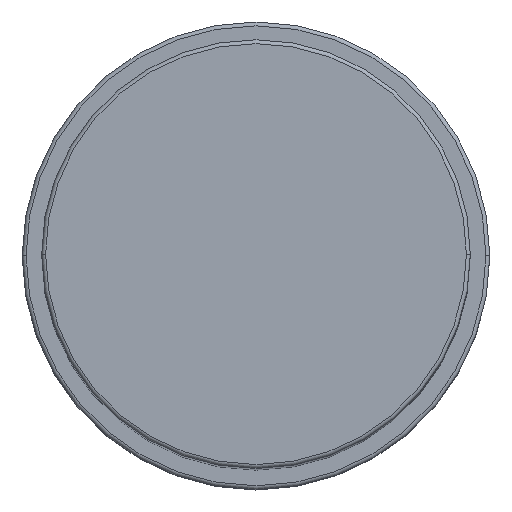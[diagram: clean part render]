
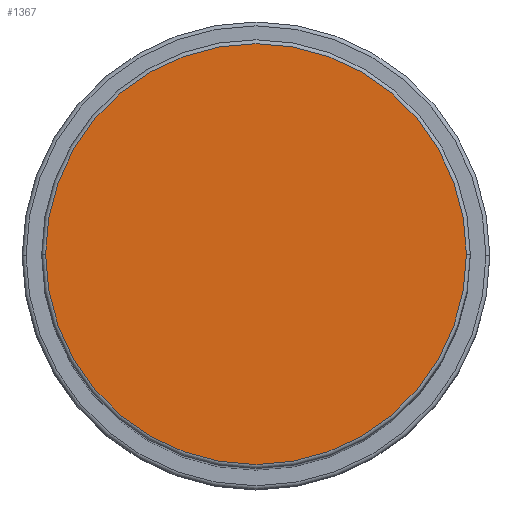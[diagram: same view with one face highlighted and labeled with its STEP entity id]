
A CAD part, top view. The second image highlights one B-rep face of the part: STEP entity #1367.
In plain terms, the highlighted planar face has unit normal (0, 0, 1).
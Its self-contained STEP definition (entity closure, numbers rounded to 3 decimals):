
#49 = CARTESIAN_POINT ( 'NONE',  ( 0., 0., 138. ) ) ;
#80 = CIRCLE ( 'NONE', #1236, 27. ) ;
#142 = CARTESIAN_POINT ( 'NONE',  ( 0., 0., 138. ) ) ;
#313 = PLANE ( 'NONE',  #796 ) ;
#611 = DIRECTION ( 'NONE',  ( 1., 0., 0. ) ) ;
#655 = DIRECTION ( 'NONE',  ( 1., 0., 0. ) ) ;
#719 = FACE_OUTER_BOUND ( 'NONE', #809, .T. ) ;
#796 = AXIS2_PLACEMENT_3D ( 'NONE', #49, #1702, #611 ) ;
#809 = EDGE_LOOP ( 'NONE', ( #884, #992 ) ) ;
#855 = VERTEX_POINT ( 'NONE', #1445 ) ;
#864 = CARTESIAN_POINT ( 'NONE',  ( -27., 0., 138. ) ) ;
#884 = ORIENTED_EDGE ( 'NONE', *, *, #1029, .T. ) ;
#899 = AXIS2_PLACEMENT_3D ( 'NONE', #142, #1233, #1632 ) ;
#926 = CARTESIAN_POINT ( 'NONE',  ( 0., 0., 138. ) ) ;
#952 = CIRCLE ( 'NONE', #899, 27. ) ;
#992 = ORIENTED_EDGE ( 'NONE', *, *, #1630, .T. ) ;
#1029 = EDGE_CURVE ( 'NONE', #855, #1395, #80, .T. ) ;
#1233 = DIRECTION ( 'NONE',  ( 0., 0., 1. ) ) ;
#1236 = AXIS2_PLACEMENT_3D ( 'NONE', #926, #1472, #655 ) ;
#1367 = ADVANCED_FACE ( 'NONE', ( #719 ), #313, .T. ) ;
#1395 = VERTEX_POINT ( 'NONE', #864 ) ;
#1445 = CARTESIAN_POINT ( 'NONE',  ( 27., 0., 138. ) ) ;
#1472 = DIRECTION ( 'NONE',  ( 0., 0., 1. ) ) ;
#1630 = EDGE_CURVE ( 'NONE', #1395, #855, #952, .T. ) ;
#1632 = DIRECTION ( 'NONE',  ( 1., 0., 0. ) ) ;
#1702 = DIRECTION ( 'NONE',  ( 0., 0., 1. ) ) ;
